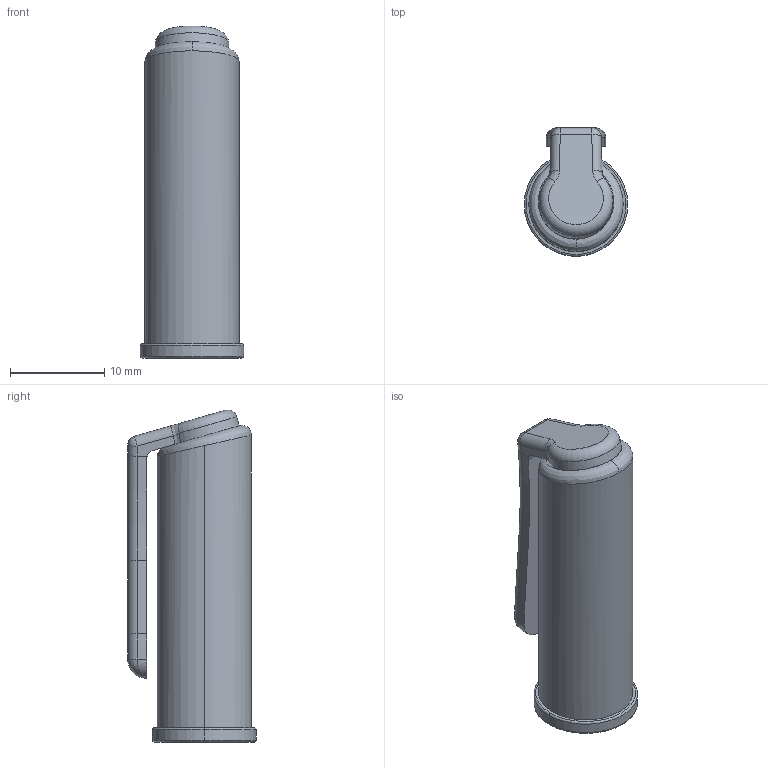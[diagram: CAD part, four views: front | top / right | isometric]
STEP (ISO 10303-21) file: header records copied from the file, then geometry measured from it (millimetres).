
FILE_DESCRIPTION (( 'STEP AP203' ), '1' );
FILE_NAME ('捩簽耀倰-欴枙.STEP', '2019-10-10T08:54:56', ( 'xtzj' ), ( '' ), 'SwSTEP 2.0', 'SolidWorks 2018', '' );
FILE_SCHEMA (( 'CONFIG_CONTROL_DESIGN' ));
Length unit declared in the file: millimetre
Products named in the file (1): 捩簽耀倰-欴枙
Bounding box: 11 x 13.62 x 35.23 mm (x, y, z)
Volume: 1343.4 mm3; surface area: 2388.4 mm2
Topology: 1 solids, 1 shells, 87 faces, 217 edges, 132 vertices
Faces by surface type: plane 38, cylinder 26, torus 13, bspline 8, sphere 2
Entity records: 2835 total; most frequent: CARTESIAN_POINT 765, ORIENTED_EDGE 426, DIRECTION 420, EDGE_CURVE 213, AXIS2_PLACEMENT_3D 159, VERTEX_POINT 132, VECTOR 102, LINE 102
